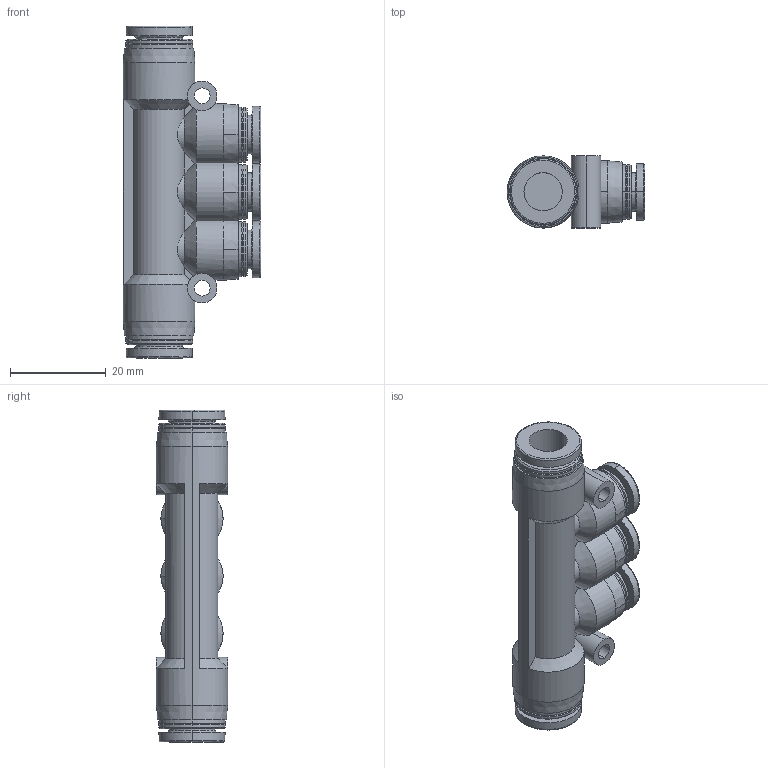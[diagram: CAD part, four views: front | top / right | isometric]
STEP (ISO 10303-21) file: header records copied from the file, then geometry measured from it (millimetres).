
FILE_DESCRIPTION (( 'STEP AP214' ), '1' );
FILE_NAME ('APKG8-6.STEP', '2019-12-06T01:22:16', ( '微软用户' ), ( '微软中国' ), 'SwSTEP 2.0', 'SolidWorks 2016', '' );
FILE_SCHEMA (( 'AUTOMOTIVE_DESIGN' ));
Length unit declared in the file: millimetre
Products named in the file (1): APKG8-6
Bounding box: 28.75 x 15 x 69.4 mm (x, y, z)
Volume: 11793.4 mm3; surface area: 8376.1 mm2
Topology: 1 solids, 1 shells, 208 faces, 484 edges, 298 vertices
Faces by surface type: cone 78, cylinder 73, plane 37, bspline 20
Entity records: 7324 total; most frequent: CARTESIAN_POINT 2586, DIRECTION 1036, ORIENTED_EDGE 968, EDGE_CURVE 484, AXIS2_PLACEMENT_3D 446, VERTEX_POINT 298, CIRCLE 257, EDGE_LOOP 232
